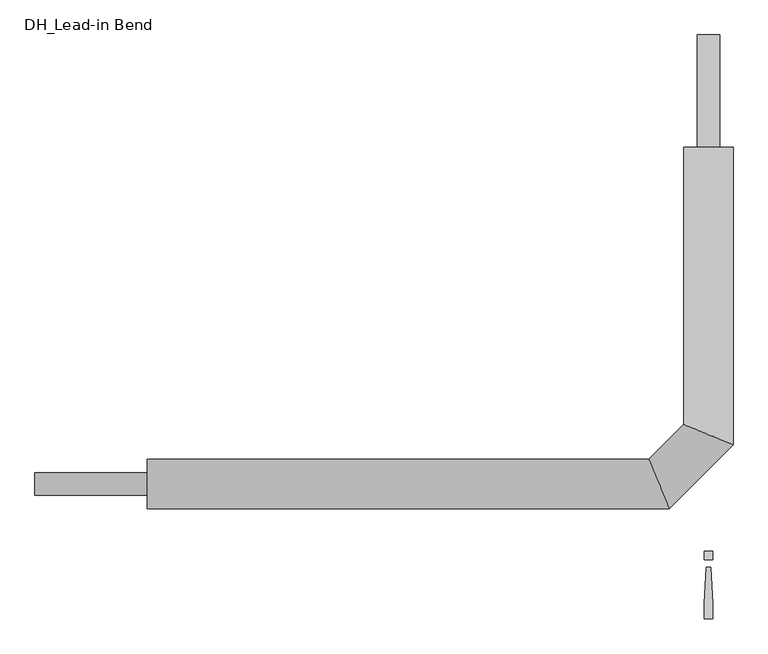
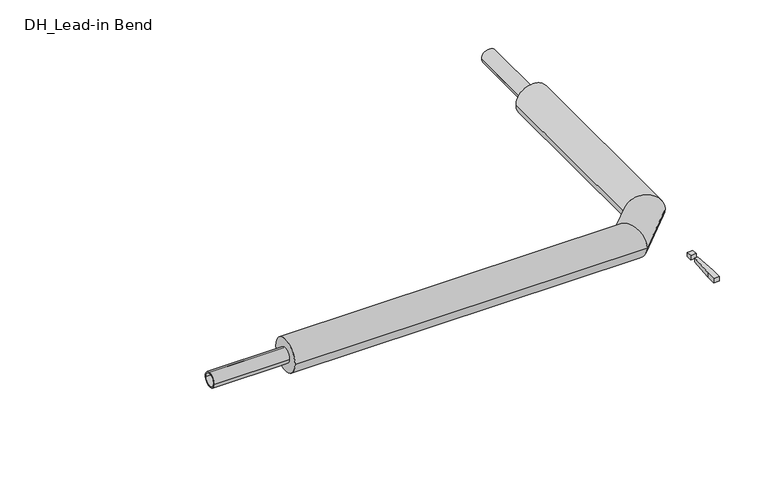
"""IFC4 building model written with IfcOpenShell, lengths in millimetres: pipe fitting geometry, DH_Lead-in Bend : INSULPEX UNO 11 Heating."""

from ifc_helpers import new_model, si_unit, point, frame, origin, origin_with_axes, origin_2d, place, context, project, spatial, polyline, circle_curve, ellipse_curve, trimmed, segment, composite_curve, outline, extrude, source, transform, mapped, element, save
from ifc_brep_helpers import plane_surface, cylinder_surface, advanced_brep


def dh_lead_in_bend_d9f55fb0(model_context):
    return source(origin(), model_context, "Body", "SolidModel", [
        advanced_brep(
        [(-1250.0, -55.0, 0.0), (-1250.0, 55.0, 0.0), (-87.2182541, -55.0, 0.0), (-132.7817459, 55.0, 0.0), (55.0, 750.0, 0.0), (-55.0, 750.0, 0.0), (-55.0, 132.7817459, 0.0), (55.0, 87.2182541, 0.0)],
        [
            (0, 1, circle_curve(frame((-1250.0, 0.0, 0.0), z_axis=(-1.0, 0.0, 0.0), x_axis=(0.0, 1.0, 0.0)), 55.0)),
            (1, 0, circle_curve(frame((-1250.0, 0.0, 0.0), z_axis=(-1.0, 0.0, 0.0), x_axis=(0.0, 1.0, 0.0)), 55.0)),
            (0, 2),
            (2, 3, ellipse_curve(frame((-110.0, 0.0, 0.0), z_axis=(-0.9238795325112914, -0.3826834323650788, 0.0), x_axis=(-0.38268343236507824, 0.9238795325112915, 0.0)), 59.531571, 55.0)),
            (3, 1),
            (3, 2, ellipse_curve(frame((-110.0, 0.0, 0.0), z_axis=(-0.9238795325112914, -0.3826834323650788, 0.0), x_axis=(-0.38268343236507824, 0.9238795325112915, 0.0)), 59.531571, 55.0)),
            (4, 5, circle_curve(frame((0.0, 750.0, 0.0), z_axis=(0.0, 1.0, 0.0), x_axis=(-1.0, 0.0, 0.0)), 55.0)),
            (5, 4, circle_curve(frame((0.0, 750.0, 0.0), z_axis=(0.0, 1.0, 0.0), x_axis=(-1.0, 0.0, 0.0)), 55.0)),
            (6, 7, ellipse_curve(frame((0.0, 110.0, 0.0), z_axis=(0.38268343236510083, 0.9238795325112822, 0.0), x_axis=(0.9238795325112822, -0.3826834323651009, 0.0)), 59.531571, 55.0)),
            (7, 4),
            (5, 6),
            (7, 6, ellipse_curve(frame((0.0, 110.0, 0.0), z_axis=(0.38268343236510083, 0.9238795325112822, 0.0), x_axis=(0.9238795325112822, -0.3826834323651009, 0.0)), 59.531571, 55.0)),
            (2, 7),
            (6, 3),
        ],
        [
            plane_surface(frame((-1250.0, 0.0, 0.0), z_axis=(-1.0, 0.0, 0.0), x_axis=(0.0, 0.0, 1.0))),
            cylinder_surface(frame((-1250.0, 0.0, 0.0), z_axis=(-1.0, 0.0, 0.0), x_axis=(0.0, 1.0, 0.0)), 55.0),
            plane_surface(frame((0.0, 750.0, 0.0), z_axis=(0.0, 1.0, 0.0), x_axis=(0.0, 0.0, 1.0))),
            cylinder_surface(frame((0.0, 110.0, 0.0), z_axis=(0.0, -1.0, 0.0), x_axis=(-1.0, 0.0, 0.0)), 55.0),
            cylinder_surface(frame((-110.0, 0.0, 0.0), z_axis=(-0.7071067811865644, -0.7071067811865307, 0.0), x_axis=(-0.7071067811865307, 0.7071067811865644, 0.0)), 55.0),
        ],
        [
            (0, [[1, 2]]),
            (1, [[-1, 3, 4, 5]]),
            (1, [[-2, -5, 6, -3]]),
            (2, [[7, 8]]),
            (3, [[9, 10, -8, 11]]),
            (3, [[12, -11, -7, -10]]),
            (4, [[-4, 13, -9, 14]]),
            (4, [[-6, -14, -12, -13]]),
        ],
    ),
        extrude(outline(polyline([(4.7088895, -185.3166715), (9.4177791, -266.6553807), (9.4177791, -300.6844652), (-9.4177791, -300.6844652), (-9.4177791, -266.6553807), (-4.7088895, -185.3166715), (4.7088895, -185.3166715)])), origin_with_axes(), (0.0, 0.0, 1.0), 15.0),
        extrude(outline(polyline([(9.4177791, -150.0), (9.4177791, -168.8355582), (-9.4177791, -168.8355582), (-9.4177791, -150.0), (9.4177791, -150.0)])), origin_with_axes(), (0.0, 0.0, 1.0), 15.0),
        extrude(outline(composite_curve([segment(trimmed(circle_curve(origin_2d(), 25.0), [point((-25.0, 0.0))], [point((25.0, 0.0))], False, "CARTESIAN"), True, "CONTINUOUS"), segment(trimmed(circle_curve(origin_2d(), 25.0), [point((25.0, 0.0))], [point((-25.0, 0.0))], False, "CARTESIAN"), True, "CONTINUOUS")], self_intersect=False), holes=[composite_curve([segment(trimmed(circle_curve(origin_2d(), 20.4), [point((-20.4, 0.0))], [point((20.4, 0.0))], True, "CARTESIAN"), True, "CONTINUOUS"), segment(trimmed(circle_curve(origin_2d(), 20.4), [point((20.4, 0.0))], [point((-20.4, 0.0))], True, "CARTESIAN"), True, "CONTINUOUS")], self_intersect=False)]), frame((-1500.0, 0.0, 0.0), z_axis=(1.0, 0.0, 0.0), x_axis=(0.0, 1.0, 0.0)), (0.0, 0.0, 1.0), 250.0),
        extrude(outline(composite_curve([segment(trimmed(circle_curve(origin_2d(), 25.0), [point((0.0, 25.0))], [point((0.0, -25.0))], False, "CARTESIAN"), True, "CONTINUOUS"), segment(trimmed(circle_curve(origin_2d(), 25.0), [point((0.0, -25.0))], [point((0.0, 25.0))], False, "CARTESIAN"), True, "CONTINUOUS")], self_intersect=False), holes=[composite_curve([segment(trimmed(circle_curve(origin_2d(), 20.4), [point((0.0, 20.4))], [point((0.0, -20.4))], True, "CARTESIAN"), True, "CONTINUOUS"), segment(trimmed(circle_curve(origin_2d(), 20.4), [point((0.0, -20.4))], [point((0.0, 20.4))], True, "CARTESIAN"), True, "CONTINUOUS")], self_intersect=False)]), frame((0.0, 750.0, 0.0), z_axis=(0.0, 1.0, 0.0), x_axis=(0.0, 0.0, 1.0)), (0.0, 0.0, 1.0), 250.0),
    ])


if __name__ == "__main__":
    model = new_model("IFC4")
    model_context = context("Model", 3, world=origin())
    ifc_project = project(units=[si_unit("LENGTHUNIT", "METRE", prefix="MILLI")], contexts=[model_context])
    site = spatial("IfcSite", under=ifc_project)
    building = spatial("IfcBuilding", under=site)
    placement = place(None, origin())
    dh_lead_in_bend_shape = dh_lead_in_bend_d9f55fb0(model_context)
    element("IfcPipeFitting", 1, ObjectType="DH_Lead-in Bend : INSULPEX UNO 11 Heating", at=placement, inside=building, context=model_context, shape_type="MappedRepresentation", body=[
        mapped(dh_lead_in_bend_shape, transform((0.0, 0.0, 0.0), x_axis=(1.0, 0.0, 0.0), y_axis=(0.0, 1.0, 0.0), z_axis=(0.0, 0.0, 1.0))),
    ])
    save(model, "model.ifc")
